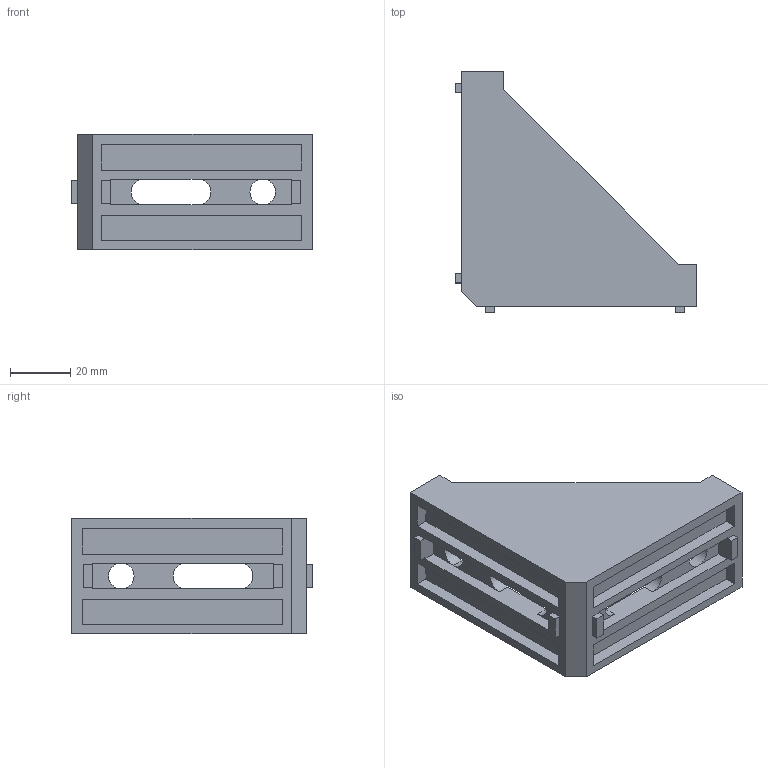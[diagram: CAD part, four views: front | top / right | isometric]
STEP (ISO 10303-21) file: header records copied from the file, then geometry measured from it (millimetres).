
FILE_DESCRIPTION (( 'STEP AP203' ), '1' );
FILE_NAME ('59－CE-RA4080-8.STEP', '2015-07-08T01:37:40', ( '' ), ( '' ), 'SwSTEP 2.0', 'SolidWorks 2013', '' );
FILE_SCHEMA (( 'CONFIG_CONTROL_DESIGN' ));
Length unit declared in the file: millimetre
Products named in the file (1): 59－CE-RA4080-8
Bounding box: 80 x 80 x 38.5 mm (x, y, z)
Volume: 38742.2 mm3; surface area: 22415.3 mm2
Topology: 1 solids, 1 shells, 72 faces, 198 edges, 130 vertices
Faces by surface type: plane 63, cylinder 9
Entity records: 2347 total; most frequent: CARTESIAN_POINT 401, ORIENTED_EDGE 396, DIRECTION 364, EDGE_CURVE 198, LINE 178, VECTOR 178, VERTEX_POINT 130, AXIS2_PLACEMENT_3D 93
